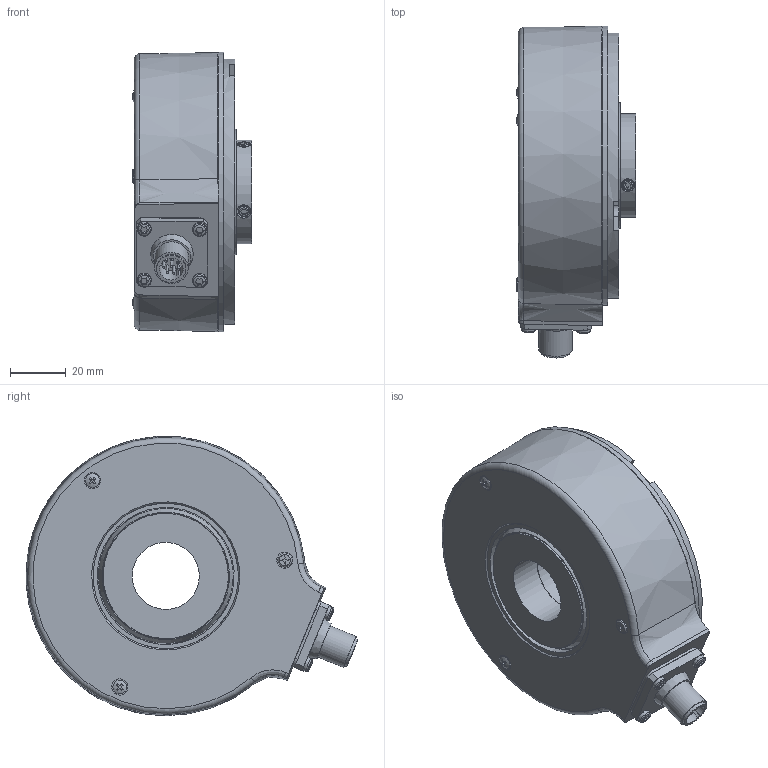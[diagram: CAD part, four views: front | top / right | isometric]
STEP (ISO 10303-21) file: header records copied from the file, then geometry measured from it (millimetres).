
FILE_DESCRIPTION (( 'STEP AP203' ), '1' );
FILE_NAME ('8.A020.16XE.XXXX.STEP', '2013-07-08T13:39:20', ( 'Hodot' ), ( '' ), 'SwSTEP 2.0', 'SolidWorks 2012', '' );
FILE_SCHEMA (( 'CONFIG_CONTROL_DESIGN' ));
Length unit declared in the file: millimetre
Products named in the file (1): 8.A020.16XE.XXXX
Bounding box: 42.6 x 118.73 x 99.95 mm (x, y, z)
Volume: 182031.9 mm3; surface area: 98026.1 mm2
Topology: 21 solids, 21 shells, 600 faces, 1517 edges, 1015 vertices
Faces by surface type: plane 290, cylinder 144, cone 66, sphere 62, torus 30, bspline 8
Full cylindrical faces by diameter (mm): 0.8 x8, 2.05 x5, 2.5 x23, 2.6 x3, 2.7 x4, 2.8 x4, 3 x7, 3.04 x3, 3.3 x3, 4 x4, 5 x6, 5.8 x3, 10.5 x2, 12 x1, 20 x1, 20.5 x1, 24 x2, 24.3 x1, 24.8 x1, 25.5 x3, 37 x1, 44.8 x1, 45 x4, 48 x1, 48.7 x2, 49 x3, 52 x2, 54.5 x2, 56 x2, 58 x3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
Entity records: 20167 total; most frequent: CARTESIAN_POINT 7418, DIRECTION 2594, ORIENTED_EDGE 2142, EDGE_LOOP 1085, EDGE_CURVE 1071, AXIS2_PLACEMENT_3D 1056, VERTEX_POINT 848, FACE_OUTER_BOUND 799
